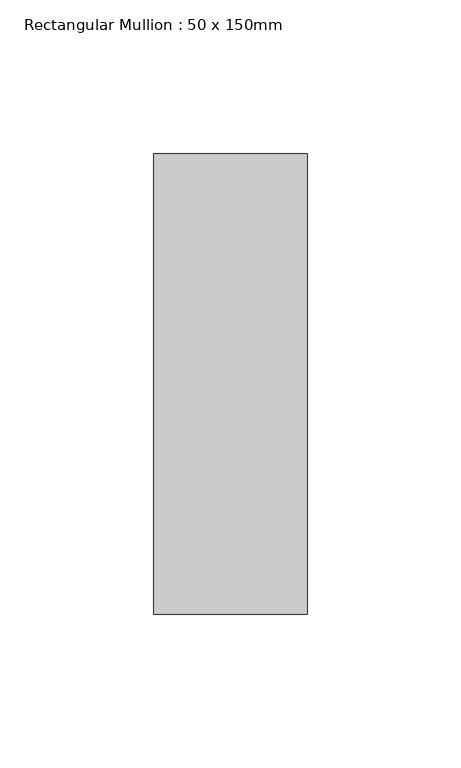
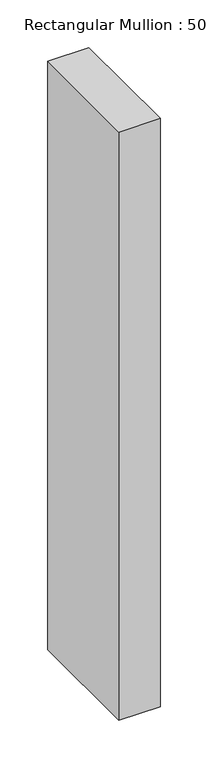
"""IFC4 building model written with IfcOpenShell, lengths in millimetres: member geometry, Rectangular Mullion : 50 x 150mm."""

from ifc_helpers import new_model, si_unit, frame, origin, place, context, project, spatial, polyline, outline, extrude, source, transform, mapped, element, save


def rectangular_mullion_50_x_150mm_a8c66e35(model_context):
    return source(origin(), model_context, "Body", "SweptSolid", [
        extrude(outline(polyline([(25.0, 75.0), (25.0, -75.0), (-25.0, -75.0), (-25.0, 75.0), (25.0, 75.0)])), frame((0.0, 0.0, -755.0), z_axis=(0.0, 0.0, 1.0), x_axis=(1.0, 0.0, 0.0)), (0.0, 0.0, 1.0), 755.0),
    ])


if __name__ == "__main__":
    model = new_model("IFC4")
    model_context = context("Model", 3, world=origin())
    ifc_project = project(units=[si_unit("LENGTHUNIT", "METRE", prefix="MILLI")], contexts=[model_context])
    site = spatial("IfcSite", under=ifc_project)
    building = spatial("IfcBuilding", under=site)
    placement = place(None, origin())
    rectangular_mullion_50_x_150mm_shape = rectangular_mullion_50_x_150mm_a8c66e35(model_context)
    element("IfcMember", 1, ObjectType="Rectangular Mullion : 50 x 150mm", at=placement, inside=building, context=model_context, shape_type="MappedRepresentation", body=[
        mapped(rectangular_mullion_50_x_150mm_shape, transform((0.0, 0.0, 0.0), x_axis=(1.0, 0.0, 0.0), y_axis=(0.0, 1.0, 0.0), z_axis=(0.0, 0.0, 1.0))),
    ])
    save(model, "model.ifc")
